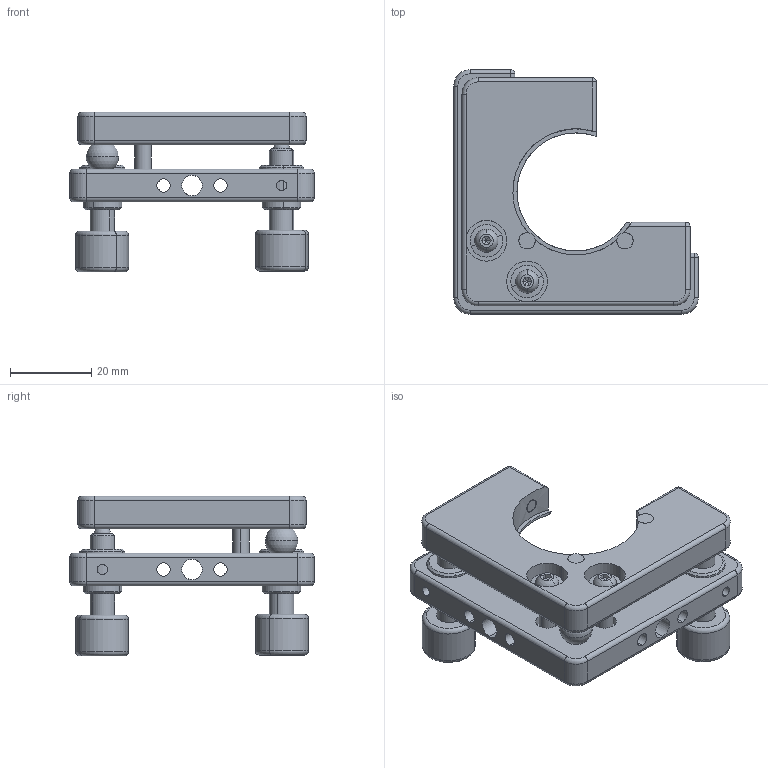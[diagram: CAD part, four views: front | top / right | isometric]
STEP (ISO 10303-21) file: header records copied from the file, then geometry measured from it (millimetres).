
FILE_DESCRIPTION (( 'STEP AP203' ), '1' );
FILE_NAME ('7MM0330謗峎覃誹噩殤.STEP', '2019-10-17T02:25:09', ( '' ), ( '' ), 'SwSTEP 2.0', 'SolidWorks 2014', '' );
FILE_SCHEMA (( 'CONFIG_CONTROL_DESIGN' ));
Length unit declared in the file: millimetre
Products named in the file (1): 7MM0330謗峎覃誹噩殤
Bounding box: 60 x 60 x 39.19 mm (x, y, z)
Surface area: 15905.5 mm2 (no closed solid volume)
Topology: 0 solids, 38 shells, 305 faces, 757 edges, 462 vertices
Faces by surface type: cylinder 127, plane 88, cone 44, torus 24, sphere 22
Entity records: 9487 total; most frequent: CARTESIAN_POINT 2171, DIRECTION 1679, ORIENTED_EDGE 1306, EDGE_CURVE 730, AXIS2_PLACEMENT_3D 681, VERTEX_POINT 453, CIRCLE 375, EDGE_LOOP 348
